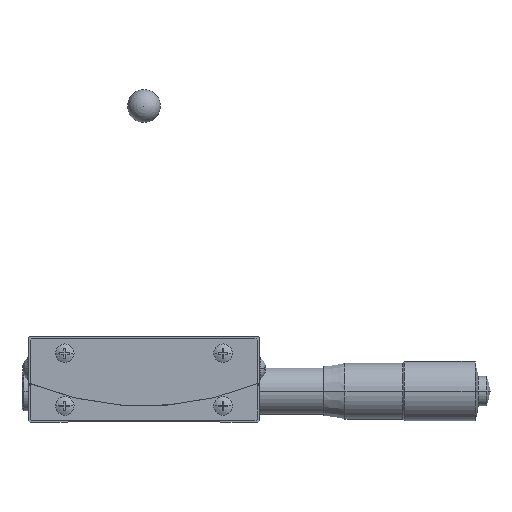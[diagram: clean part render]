
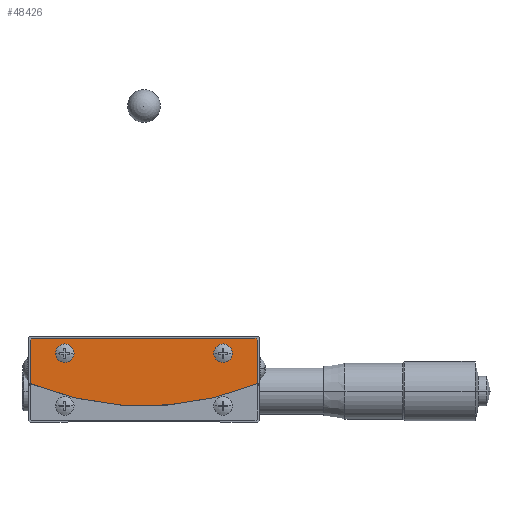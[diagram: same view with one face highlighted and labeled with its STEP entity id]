
A CAD part, front view. The second image highlights one B-rep face of the part: STEP entity #48426.
In plain terms, the highlighted planar face has unit normal (0, -1, 0).
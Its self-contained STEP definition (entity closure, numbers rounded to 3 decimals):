
#10947 = CIRCLE ( 'NONE', #11010, 2.8 ) ;
#10978 = DIRECTION ( 'NONE',  ( 0., -1., 0. ) ) ;
#10979 = CARTESIAN_POINT ( 'NONE',  ( 0., -35.5, 70. ) ) ;
#10980 = AXIS2_PLACEMENT_3D ( 'NONE', #10979, #10978, #11044 ) ;
#10981 = CIRCLE ( 'NONE', #10980, 91. ) ;
#11007 = DIRECTION ( 'NONE',  ( 0., 0., -1. ) ) ;
#11008 = DIRECTION ( 'NONE',  ( 0., 1., 0. ) ) ;
#11009 = CARTESIAN_POINT ( 'NONE',  ( 24., -35.5, -5. ) ) ;
#11010 = AXIS2_PLACEMENT_3D ( 'NONE', #11009, #11008, #11007 ) ;
#11011 = DIRECTION ( 'NONE',  ( -0.707, 0., -0.707 ) ) ;
#11012 = VECTOR ( 'NONE', #11011, 1000. ) ;
#11013 = CARTESIAN_POINT ( 'NONE',  ( -34., -35.5, -0.5 ) ) ;
#11014 = LINE ( 'NONE', #11013, #11012 ) ;
#11016 = CARTESIAN_POINT ( 'NONE',  ( -34., -35.5, -0.5 ) ) ;
#11017 = CARTESIAN_POINT ( 'NONE',  ( 34., -35.5, -0.5 ) ) ;
#11018 = DIRECTION ( 'NONE',  ( -1., 0., 0. ) ) ;
#11019 = VECTOR ( 'NONE', #11018, 1000. ) ;
#11020 = CARTESIAN_POINT ( 'NONE',  ( 34., -35.5, -0.5 ) ) ;
#11021 = LINE ( 'NONE', #11020, #11019 ) ;
#11028 = DIRECTION ( 'NONE',  ( -0.707, 0., 0.707 ) ) ;
#11029 = VECTOR ( 'NONE', #11028, 1000. ) ;
#11030 = CARTESIAN_POINT ( 'NONE',  ( 34.5, -35.5, -1. ) ) ;
#11031 = LINE ( 'NONE', #11030, #11029 ) ;
#11032 = CARTESIAN_POINT ( 'NONE',  ( 34.5, -35.5, -1. ) ) ;
#11033 = DIRECTION ( 'NONE',  ( 0., 0., 1. ) ) ;
#11034 = VECTOR ( 'NONE', #11033, 1000. ) ;
#11035 = CARTESIAN_POINT ( 'NONE',  ( 34.5, -35.5, -13.871 ) ) ;
#11036 = LINE ( 'NONE', #11035, #11034 ) ;
#11037 = CARTESIAN_POINT ( 'NONE',  ( 34.5, -35.5, -13.871 ) ) ;
#11038 = DIRECTION ( 'NONE',  ( 1., 0., 0. ) ) ;
#11039 = DIRECTION ( 'NONE',  ( 0., -1., 0. ) ) ;
#11040 = CARTESIAN_POINT ( 'NONE',  ( 34., -35.5, -13.871 ) ) ;
#11041 = AXIS2_PLACEMENT_3D ( 'NONE', #11040, #11039, #11038 ) ;
#11042 = CIRCLE ( 'NONE', #11041, 0.5 ) ;
#11043 = CARTESIAN_POINT ( 'NONE',  ( 34.188, -35.5, -14.334 ) ) ;
#11044 = DIRECTION ( 'NONE',  ( 1., 0., 0. ) ) ;
#11046 = DIRECTION ( 'NONE',  ( 0., 0., -1. ) ) ;
#11047 = DIRECTION ( 'NONE',  ( 0., 1., 0. ) ) ;
#11048 = CARTESIAN_POINT ( 'NONE',  ( -24., -35.5, -5. ) ) ;
#11049 = AXIS2_PLACEMENT_3D ( 'NONE', #11048, #11047, #11046 ) ;
#11050 = CIRCLE ( 'NONE', #11049, 2.8 ) ;
#11051 = DIRECTION ( 'NONE',  ( 1., 0., 0. ) ) ;
#11052 = DIRECTION ( 'NONE',  ( 0., -1., 0. ) ) ;
#11053 = CARTESIAN_POINT ( 'NONE',  ( -34., -35.5, -13.871 ) ) ;
#11054 = AXIS2_PLACEMENT_3D ( 'NONE', #11053, #11052, #11051 ) ;
#11055 = PLANE ( 'NONE',  #11054 ) ;
#11056 = FACE_OUTER_BOUND ( 'NONE', #48353, .T. ) ;
#11057 = FACE_BOUND ( 'NONE', #48350, .T. ) ;
#11058 = FACE_BOUND ( 'NONE', #48427, .T. ) ;
#11065 = CARTESIAN_POINT ( 'NONE',  ( -34.188, -35.5, -14.334 ) ) ;
#11066 = DIRECTION ( 'NONE',  ( 1., 0., 0. ) ) ;
#11067 = DIRECTION ( 'NONE',  ( 0., -1., 0. ) ) ;
#11068 = CARTESIAN_POINT ( 'NONE',  ( -34., -35.5, -13.871 ) ) ;
#11069 = AXIS2_PLACEMENT_3D ( 'NONE', #11068, #11067, #11066 ) ;
#11070 = CIRCLE ( 'NONE', #11069, 0.5 ) ;
#11071 = CARTESIAN_POINT ( 'NONE',  ( -34.5, -35.5, -13.871 ) ) ;
#11072 = DIRECTION ( 'NONE',  ( 0., 0., -1. ) ) ;
#11073 = VECTOR ( 'NONE', #11072, 1000. ) ;
#11074 = CARTESIAN_POINT ( 'NONE',  ( -34.5, -35.5, -1. ) ) ;
#11075 = LINE ( 'NONE', #11074, #11073 ) ;
#11076 = CARTESIAN_POINT ( 'NONE',  ( -34.5, -35.5, -1. ) ) ;
#27933 = CARTESIAN_POINT ( 'NONE',  ( -26.8, -35.5, -5. ) ) ;
#28016 = DIRECTION ( 'NONE',  ( 0., 0., -1. ) ) ;
#28018 = DIRECTION ( 'NONE',  ( 0., 1., 0. ) ) ;
#28020 = CARTESIAN_POINT ( 'NONE',  ( -24., -35.5, -5. ) ) ;
#28022 = AXIS2_PLACEMENT_3D ( 'NONE', #28020, #28018, #28016 ) ;
#28033 = CIRCLE ( 'NONE', #28022, 2.8 ) ;
#28211 = CARTESIAN_POINT ( 'NONE',  ( -21.2, -35.5, -5. ) ) ;
#28553 = CARTESIAN_POINT ( 'NONE',  ( 21.2, -35.5, -5. ) ) ;
#28741 = DIRECTION ( 'NONE',  ( 0., 0., -1. ) ) ;
#28743 = DIRECTION ( 'NONE',  ( 0., 1., 0. ) ) ;
#28745 = CARTESIAN_POINT ( 'NONE',  ( 24., -35.5, -5. ) ) ;
#28747 = AXIS2_PLACEMENT_3D ( 'NONE', #28745, #28743, #28741 ) ;
#28749 = CIRCLE ( 'NONE', #28747, 2.8 ) ;
#29333 = CARTESIAN_POINT ( 'NONE',  ( 26.8, -35.5, -5. ) ) ;
#30300 = VERTEX_POINT ( 'NONE', #27933 ) ;
#30317 = EDGE_CURVE ( 'NONE', #30300, #30390, #28033, .T. ) ;
#30390 = VERTEX_POINT ( 'NONE', #28211 ) ;
#30479 = VERTEX_POINT ( 'NONE', #28553 ) ;
#30573 = EDGE_CURVE ( 'NONE', #30479, #30842, #28749, .T. ) ;
#30842 = VERTEX_POINT ( 'NONE', #29333 ) ;
#48349 = ORIENTED_EDGE ( 'NONE', *, *, #30317, .T. ) ;
#48350 = EDGE_LOOP ( 'NONE', ( #48351, #48407 ) ) ;
#48351 = ORIENTED_EDGE ( 'NONE', *, *, #48352, .T. ) ;
#48352 = EDGE_CURVE ( 'NONE', #30842, #30479, #10947, .T. ) ;
#48353 = EDGE_LOOP ( 'NONE', ( #48408, #48412, #48415, #48418, #48393, #48396, #48399, #48402 ) ) ;
#48393 = ORIENTED_EDGE ( 'NONE', *, *, #48394, .T. ) ;
#48394 = EDGE_CURVE ( 'NONE', #48420, #48395, #10981, .T. ) ;
#48395 = VERTEX_POINT ( 'NONE', #11043 ) ;
#48396 = ORIENTED_EDGE ( 'NONE', *, *, #48397, .T. ) ;
#48397 = EDGE_CURVE ( 'NONE', #48395, #48398, #11042, .T. ) ;
#48398 = VERTEX_POINT ( 'NONE', #11037 ) ;
#48399 = ORIENTED_EDGE ( 'NONE', *, *, #48400, .T. ) ;
#48400 = EDGE_CURVE ( 'NONE', #48398, #48401, #11036, .T. ) ;
#48401 = VERTEX_POINT ( 'NONE', #11032 ) ;
#48402 = ORIENTED_EDGE ( 'NONE', *, *, #48403, .T. ) ;
#48403 = EDGE_CURVE ( 'NONE', #48401, #48410, #11031, .T. ) ;
#48407 = ORIENTED_EDGE ( 'NONE', *, *, #30573, .T. ) ;
#48408 = ORIENTED_EDGE ( 'NONE', *, *, #48409, .T. ) ;
#48409 = EDGE_CURVE ( 'NONE', #48410, #48411, #11021, .T. ) ;
#48410 = VERTEX_POINT ( 'NONE', #11017 ) ;
#48411 = VERTEX_POINT ( 'NONE', #11016 ) ;
#48412 = ORIENTED_EDGE ( 'NONE', *, *, #48413, .T. ) ;
#48413 = EDGE_CURVE ( 'NONE', #48411, #48414, #11014, .T. ) ;
#48414 = VERTEX_POINT ( 'NONE', #11076 ) ;
#48415 = ORIENTED_EDGE ( 'NONE', *, *, #48416, .T. ) ;
#48416 = EDGE_CURVE ( 'NONE', #48414, #48417, #11075, .T. ) ;
#48417 = VERTEX_POINT ( 'NONE', #11071 ) ;
#48418 = ORIENTED_EDGE ( 'NONE', *, *, #48419, .T. ) ;
#48419 = EDGE_CURVE ( 'NONE', #48417, #48420, #11070, .T. ) ;
#48420 = VERTEX_POINT ( 'NONE', #11065 ) ;
#48426 = ADVANCED_FACE ( 'NONE', ( #11058, #11057, #11056 ), #11055, .T. ) ;
#48427 = EDGE_LOOP ( 'NONE', ( #48428, #48349 ) ) ;
#48428 = ORIENTED_EDGE ( 'NONE', *, *, #48429, .T. ) ;
#48429 = EDGE_CURVE ( 'NONE', #30390, #30300, #11050, .T. ) ;
